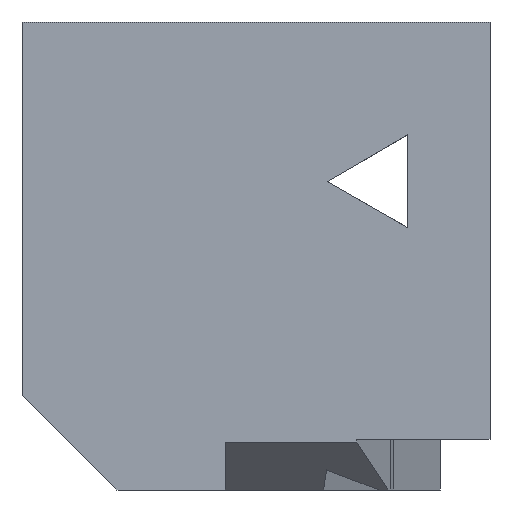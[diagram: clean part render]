
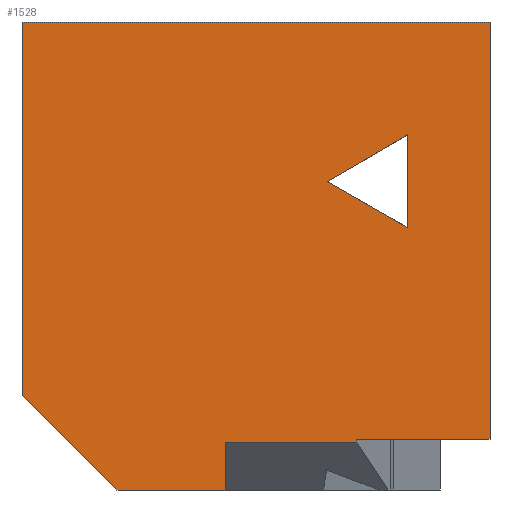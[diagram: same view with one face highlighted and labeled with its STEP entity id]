
A CAD part, left-side view. The second image highlights one B-rep face of the part: STEP entity #1528.
In plain terms, the highlighted planar face has unit normal (-1, 0, 0).
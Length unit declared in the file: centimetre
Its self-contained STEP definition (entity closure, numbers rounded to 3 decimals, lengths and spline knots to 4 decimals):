
#9 = VERTEX_POINT ( 'NONE', #1799 ) ;
#14 = AXIS2_PLACEMENT_3D ( 'NONE', #309, #896, #755 ) ;
#39 = VERTEX_POINT ( 'NONE', #973 ) ;
#49 = VECTOR ( 'NONE', #572, 100. ) ;
#85 = ORIENTED_EDGE ( 'NONE', *, *, #1035, .F. ) ;
#87 = LINE ( 'NONE', #675, #1811 ) ;
#92 = EDGE_CURVE ( 'NONE', #640, #1131, #87, .T. ) ;
#151 = LINE ( 'NONE', #1042, #1845 ) ;
#166 = PLANE ( 'NONE',  #14 ) ;
#243 = CARTESIAN_POINT ( 'NONE',  ( 0., 1000., 202.9878 ) ) ;
#282 = EDGE_CURVE ( 'NONE', #441, #9, #1762, .T. ) ;
#301 = FACE_OUTER_BOUND ( 'NONE', #1439, .T. ) ;
#305 = DIRECTION ( 'NONE',  ( 0., -1., 0. ) ) ;
#309 = CARTESIAN_POINT ( 'NONE',  ( 0., 1000., 1000. ) ) ;
#314 = DIRECTION ( 'NONE',  ( 0., -0.707, -0.707 ) ) ;
#316 = EDGE_CURVE ( 'NONE', #1703, #640, #151, .T. ) ;
#371 = EDGE_CURVE ( 'NONE', #1131, #1703, #1087, .T. ) ;
#384 = ORIENTED_EDGE ( 'NONE', *, *, #1820, .T. ) ;
#419 = VECTOR ( 'NONE', #1125, 100. ) ;
#432 = CARTESIAN_POINT ( 'NONE',  ( 0., 565.4768, 0. ) ) ;
#441 = VERTEX_POINT ( 'NONE', #1222 ) ;
#445 = VECTOR ( 'NONE', #458, 100. ) ;
#446 = VECTOR ( 'NONE', #1165, 100. ) ;
#458 = DIRECTION ( 'NONE',  ( 0., 1., 0. ) ) ;
#476 = ORIENTED_EDGE ( 'NONE', *, *, #371, .T. ) ;
#542 = VECTOR ( 'NONE', #314, 100. ) ;
#572 = DIRECTION ( 'NONE',  ( 0., 0., -1. ) ) ;
#607 = CARTESIAN_POINT ( 'NONE',  ( 0., 0., 1000. ) ) ;
#613 = EDGE_CURVE ( 'NONE', #1747, #1417, #1707, .T. ) ;
#625 = CARTESIAN_POINT ( 'NONE',  ( 0., 1000., 202.9878 ) ) ;
#636 = VERTEX_POINT ( 'NONE', #243 ) ;
#640 = VERTEX_POINT ( 'NONE', #1827 ) ;
#673 = VERTEX_POINT ( 'NONE', #687 ) ;
#675 = CARTESIAN_POINT ( 'NONE',  ( 0., 176.2763, 560.6666 ) ) ;
#687 = CARTESIAN_POINT ( 'NONE',  ( 0., 797.0122, 0. ) ) ;
#690 = VECTOR ( 'NONE', #1558, 100. ) ;
#732 = LINE ( 'NONE', #1701, #49 ) ;
#755 = DIRECTION ( 'NONE',  ( 0., 0., -1. ) ) ;
#789 = ORIENTED_EDGE ( 'NONE', *, *, #613, .F. ) ;
#791 = ORIENTED_EDGE ( 'NONE', *, *, #1454, .T. ) ;
#868 = EDGE_CURVE ( 'NONE', #1204, #636, #732, .T. ) ;
#879 = LINE ( 'NONE', #1575, #419 ) ;
#896 = DIRECTION ( 'NONE',  ( 1., 0., 0. ) ) ;
#900 = CARTESIAN_POINT ( 'NONE',  ( 0., 1000., 1000. ) ) ;
#911 = ORIENTED_EDGE ( 'NONE', *, *, #1046, .F. ) ;
#955 = LINE ( 'NONE', #1534, #446 ) ;
#973 = CARTESIAN_POINT ( 'NONE',  ( 0., 284.5449, 102.4875 ) ) ;
#979 = CARTESIAN_POINT ( 'NONE',  ( 0., 1000., 0. ) ) ;
#1035 = EDGE_CURVE ( 'NONE', #1204, #1073, #1765, .T. ) ;
#1040 = CARTESIAN_POINT ( 'NONE',  ( 0., 176.2763, 560.6666 ) ) ;
#1042 = CARTESIAN_POINT ( 'NONE',  ( 0., 176.2763, 758.9926 ) ) ;
#1044 = CARTESIAN_POINT ( 'NONE',  ( 0., 284.5449, 108.6063 ) ) ;
#1046 = EDGE_CURVE ( 'NONE', #9, #39, #1314, .T. ) ;
#1047 = CARTESIAN_POINT ( 'NONE',  ( 0., 1000., 1000. ) ) ;
#1073 = VERTEX_POINT ( 'NONE', #607 ) ;
#1075 = CARTESIAN_POINT ( 'NONE',  ( 0., 347.4809, 658.8758 ) ) ;
#1087 = LINE ( 'NONE', #1075, #1815 ) ;
#1125 = DIRECTION ( 'NONE',  ( 0., -1., 0. ) ) ;
#1131 = VERTEX_POINT ( 'NONE', #1040 ) ;
#1136 = EDGE_CURVE ( 'NONE', #636, #673, #1344, .T. ) ;
#1165 = DIRECTION ( 'NONE',  ( 0., 0., -1. ) ) ;
#1170 = ORIENTED_EDGE ( 'NONE', *, *, #1846, .F. ) ;
#1173 = CARTESIAN_POINT ( 'NONE',  ( 0., 347.4809, 658.8758 ) ) ;
#1177 = VECTOR ( 'NONE', #305, 100. ) ;
#1185 = CARTESIAN_POINT ( 'NONE',  ( 0., 284.5449, 108.6063 ) ) ;
#1204 = VERTEX_POINT ( 'NONE', #1047 ) ;
#1222 = CARTESIAN_POINT ( 'NONE',  ( 0., 0., 108.6063 ) ) ;
#1256 = ORIENTED_EDGE ( 'NONE', *, *, #316, .T. ) ;
#1314 = LINE ( 'NONE', #1044, #1784 ) ;
#1344 = LINE ( 'NONE', #625, #542 ) ;
#1349 = ORIENTED_EDGE ( 'NONE', *, *, #282, .F. ) ;
#1380 = CARTESIAN_POINT ( 'NONE',  ( 0., 565.4768, 102.4875 ) ) ;
#1417 = VERTEX_POINT ( 'NONE', #432 ) ;
#1439 = EDGE_LOOP ( 'NONE', ( #789, #791, #911, #1349, #1170, #85, #1570, #1803, #384 ) ) ;
#1454 = EDGE_CURVE ( 'NONE', #1747, #39, #879, .T. ) ;
#1459 = EDGE_LOOP ( 'NONE', ( #1256, #1565, #476 ) ) ;
#1501 = DIRECTION ( 'NONE',  ( 0., 0.867, 0.498 ) ) ;
#1528 = ADVANCED_FACE ( 'NONE', ( #1612, #301 ), #166, .F. ) ;
#1534 = CARTESIAN_POINT ( 'NONE',  ( 0., 0., 1000. ) ) ;
#1558 = DIRECTION ( 'NONE',  ( 0., -1., 0. ) ) ;
#1565 = ORIENTED_EDGE ( 'NONE', *, *, #92, .T. ) ;
#1570 = ORIENTED_EDGE ( 'NONE', *, *, #868, .T. ) ;
#1575 = CARTESIAN_POINT ( 'NONE',  ( 0., 565.4768, 102.4875 ) ) ;
#1612 = FACE_BOUND ( 'NONE', #1459, .T. ) ;
#1624 = DIRECTION ( 'NONE',  ( 0., 0., -1. ) ) ;
#1690 = VECTOR ( 'NONE', #1852, 100. ) ;
#1701 = CARTESIAN_POINT ( 'NONE',  ( 0., 1000., 1000. ) ) ;
#1703 = VERTEX_POINT ( 'NONE', #1173 ) ;
#1707 = LINE ( 'NONE', #1716, #1690 ) ;
#1716 = CARTESIAN_POINT ( 'NONE',  ( 0., 565.4768, 0. ) ) ;
#1737 = DIRECTION ( 'NONE',  ( 0., -0.863, 0.505 ) ) ;
#1747 = VERTEX_POINT ( 'NONE', #1380 ) ;
#1762 = LINE ( 'NONE', #1185, #445 ) ;
#1765 = LINE ( 'NONE', #900, #1177 ) ;
#1784 = VECTOR ( 'NONE', #1624, 100. ) ;
#1799 = CARTESIAN_POINT ( 'NONE',  ( 0., 284.5449, 108.6063 ) ) ;
#1803 = ORIENTED_EDGE ( 'NONE', *, *, #1136, .T. ) ;
#1811 = VECTOR ( 'NONE', #1850, 100. ) ;
#1815 = VECTOR ( 'NONE', #1501, 100. ) ;
#1820 = EDGE_CURVE ( 'NONE', #673, #1417, #1855, .T. ) ;
#1827 = CARTESIAN_POINT ( 'NONE',  ( 0., 176.2763, 758.9926 ) ) ;
#1845 = VECTOR ( 'NONE', #1737, 100. ) ;
#1846 = EDGE_CURVE ( 'NONE', #1073, #441, #955, .T. ) ;
#1850 = DIRECTION ( 'NONE',  ( 0., 0., -1. ) ) ;
#1852 = DIRECTION ( 'NONE',  ( 0., 0., -1. ) ) ;
#1855 = LINE ( 'NONE', #979, #690 ) ;
